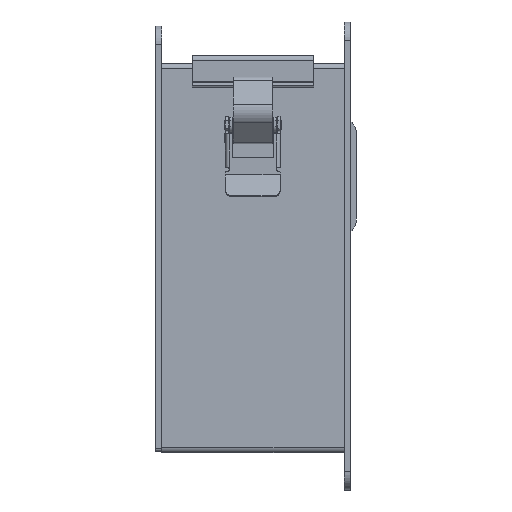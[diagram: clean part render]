
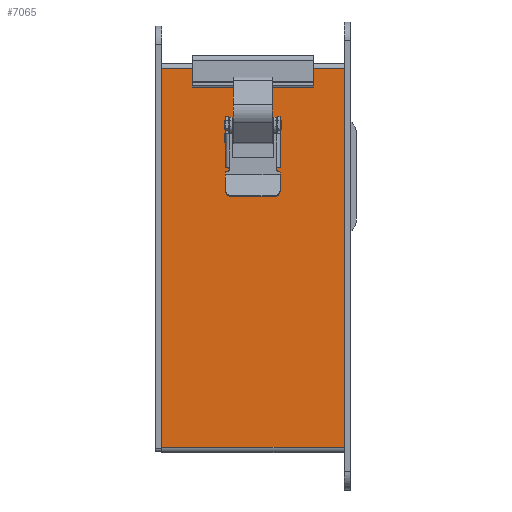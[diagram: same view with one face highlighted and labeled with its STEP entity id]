
A CAD part, front view. The second image highlights one B-rep face of the part: STEP entity #7065.
In plain terms, the highlighted planar face has unit normal (0, -1, 0).
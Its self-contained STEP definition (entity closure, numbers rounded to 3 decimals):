
#2393=ORIENTED_EDGE('',*,*,#3622,.F.);
#2394=ORIENTED_EDGE('',*,*,#3624,.F.);
#2395=ORIENTED_EDGE('',*,*,#3595,.T.);
#2396=ORIENTED_EDGE('',*,*,#3625,.T.);
#3595=EDGE_CURVE('',#4339,#4338,#4959,.T.);
#3622=EDGE_CURVE('',#4357,#4358,#4973,.T.);
#3624=EDGE_CURVE('',#4339,#4357,#4974,.T.);
#3625=EDGE_CURVE('',#4338,#4358,#4975,.T.);
#4338=VERTEX_POINT('',#10964);
#4339=VERTEX_POINT('',#10966);
#4357=VERTEX_POINT('',#11012);
#4358=VERTEX_POINT('',#11014);
#4959=LINE('',#10965,#5542);
#4973=LINE('',#11013,#5556);
#4974=LINE('',#11017,#5557);
#4975=LINE('',#11019,#5558);
#5542=VECTOR('',#9188,1000.);
#5556=VECTOR('',#9232,1000.);
#5557=VECTOR('',#9237,1000.);
#5558=VECTOR('',#9240,1000.);
#6014=EDGE_LOOP('',(#2393,#2394,#2395,#2396));
#6460=FACE_BOUND('',#6014,.T.);
#6733=PLANE('',#7722);
#7065=ADVANCED_FACE('',(#6460),#6733,.T.);
#7722=AXIS2_PLACEMENT_3D('',#11018,#9238,#9239);
#9188=DIRECTION('',(0.,0.,-1.));
#9232=DIRECTION('',(0.,0.,-1.));
#9237=DIRECTION('',(1.,0.,0.));
#9238=DIRECTION('',(0.,-1.,0.));
#9239=DIRECTION('',(0.,0.,-1.));
#9240=DIRECTION('',(1.,0.,0.));
#10964=CARTESIAN_POINT('',(-47.625,-101.6,-98.857));
#10965=CARTESIAN_POINT('',(-47.625,-101.6,101.6));
#10966=CARTESIAN_POINT('',(-47.625,-101.6,98.857));
#11012=CARTESIAN_POINT('',(47.625,-101.6,98.857));
#11013=CARTESIAN_POINT('',(47.625,-101.6,101.6));
#11014=CARTESIAN_POINT('',(47.625,-101.6,-98.857));
#11017=CARTESIAN_POINT('',(-47.625,-101.6,98.857));
#11018=CARTESIAN_POINT('',(-47.625,-101.6,101.6));
#11019=CARTESIAN_POINT('',(-47.625,-101.6,-98.857));
